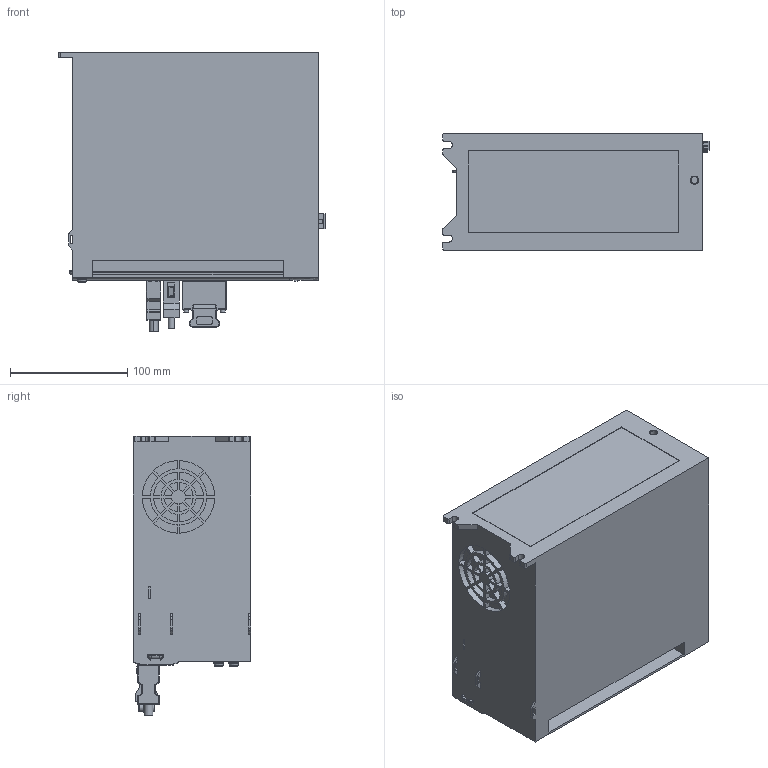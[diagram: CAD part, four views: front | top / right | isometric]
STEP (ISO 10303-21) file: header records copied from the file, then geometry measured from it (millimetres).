
FILE_DESCRIPTION (( 'STEP AP214' ), '1' );
FILE_NAME ('Ω6s-AN-D型-全能&直线-整机外形图.STEP', '2023-04-19T06:11:21', ( '' ), ( '' ), 'SwSTEP 2.0', 'SolidWorks 2014', '' );
FILE_SCHEMA (( 'AUTOMOTIVE_DESIGN' ));
Length unit declared in the file: millimetre
Products named in the file (18): JDZcoder; STOM2X04P; MUF-PK10K-X; STOG2X4P; M4-H8; 26pinMDRplug; 3KWK; Ω6s-AN-D型-全能&直线-整机外形图; jxgb1
Assembly tree (9 placements, depth 2):
  JDZcoder
  STOM2X04P
  M4-H8
  26pinMDRplug
  M4-H8
Bounding box: 227.5 x 100 x 239.2 mm (x, y, z)
Volume: 3502124.5 mm3; surface area: 417549.5 mm2
Topology: 13 solids, 13 shells, 1608 faces, 4354 edges, 2839 vertices
Faces by surface type: plane 1172, cylinder 356, bspline 34, sphere 18, cone 16, torus 12
Entity records: 51477 total; most frequent: CARTESIAN_POINT 10603, ORIENTED_EDGE 8468, DIRECTION 7909, EDGE_CURVE 4234, LINE 3459, VECTOR 3459, VERTEX_POINT 2775, AXIS2_PLACEMENT_3D 2225
